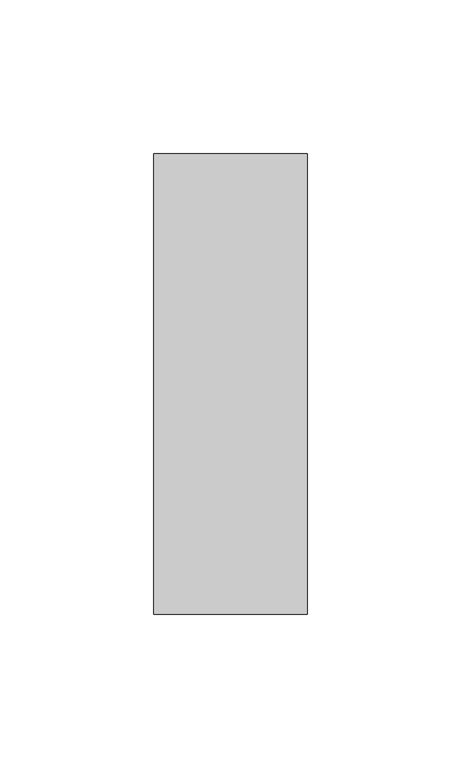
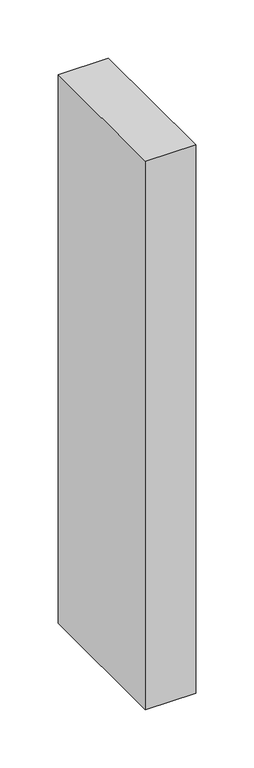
"""IFC4 building model written with IfcOpenShell, lengths in millimetres: member geometry, Прямоугольный импост : 50х150мм."""

from ifc_helpers import new_model, si_unit, frame, origin, place, context, project, spatial, polyline, outline, extrude, source, transform, mapped, element, save


def member_32c4282c(model_context):
    return source(origin(), model_context, "Body", "SweptSolid", [
        extrude(outline(polyline([(0.0, 75.0), (0.0, -75.0), (-50.0, -75.0), (-50.0, 75.0), (0.0, 75.0)])), frame((0.0, 0.0, -576.1128016), z_axis=(0.0, 0.0, 1.0), x_axis=(1.0, 0.0, 0.0)), (0.0, 0.0, 1.0), 576.1128016),
    ])


if __name__ == "__main__":
    model = new_model("IFC4")
    model_context = context("Model", 3, world=origin())
    ifc_project = project(units=[si_unit("LENGTHUNIT", "METRE", prefix="MILLI")], contexts=[model_context])
    site = spatial("IfcSite", under=ifc_project)
    building = spatial("IfcBuilding", under=site)
    placement = place(None, origin())
    member_shape = member_32c4282c(model_context)
    element("IfcMember", 1, ObjectType="Прямоугольный импост : 50х150мм", at=placement, inside=building, context=model_context, shape_type="MappedRepresentation", body=[
        mapped(member_shape, transform((0.0, 0.0, 0.0), x_axis=(1.0, 0.0, 0.0), y_axis=(0.0, 1.0, 0.0), z_axis=(0.0, 0.0, 1.0))),
    ])
    save(model, "model.ifc")
